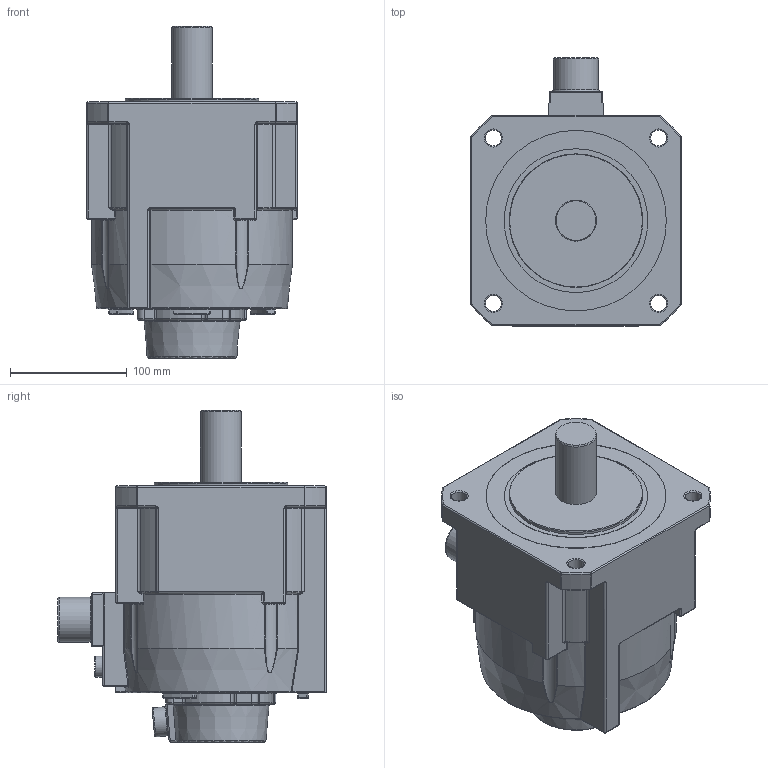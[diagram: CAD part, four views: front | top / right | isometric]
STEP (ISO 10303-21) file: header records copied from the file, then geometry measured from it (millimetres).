
FILE_DESCRIPTION(/* description */ (''),/* implementation_level */ '2;1');
FILE_NAME(/* name */ '01-180BAH19015 - FZ.stp',/* time_stamp */ '2020-08-27T15:00:24+08:00',/* author */ (''),/* organization */ (''),/* preprocessor_version */ 'ST-DEVELOPER v16',/* originating_system */ 'SIEMENS PLM Software NX 10.0',/* authorisation */ '');
FILE_SCHEMA (('CONFIG_CONTROL_DESIGN'));
Length unit declared in the file: millimetre
Products named in the file (1): 01-180BAH19015 - FZ
Bounding box: 180 x 229.5 x 284 mm (x, y, z)
Volume: 5073120.8 mm3; surface area: 208550.4 mm2
Topology: 1 solids, 1 shells, 576 faces, 1360 edges, 726 vertices
Faces by surface type: cylinder 228, torus 149, plane 79, bspline 59, sphere 52, cone 9
Full cylindrical faces by diameter (mm): 6.8 x2, 13.5 x4, 18 x1, 25 x1, 35 x1, 38.6 x1, 114.3 x1, 123 x1, 154.5 x1
Entity records: 18237 total; most frequent: CARTESIAN_POINT 5633, DIRECTION 2829, ORIENTED_EDGE 2502, EDGE_CURVE 1251, AXIS2_PLACEMENT_3D 1219, VERTEX_POINT 722, CIRCLE 682, EDGE_LOOP 627
